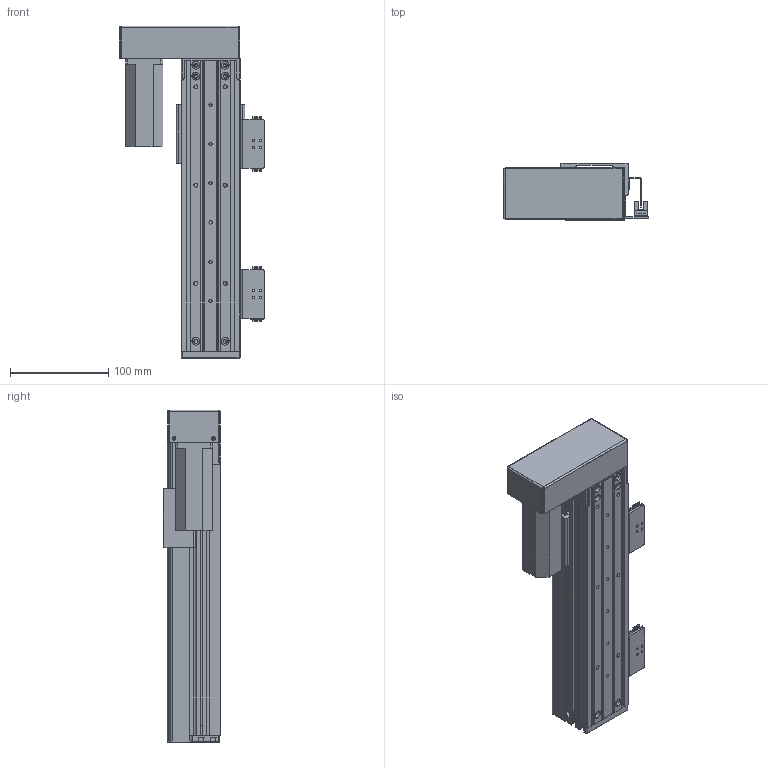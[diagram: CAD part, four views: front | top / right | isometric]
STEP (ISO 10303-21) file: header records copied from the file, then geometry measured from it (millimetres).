
FILE_DESCRIPTION (( 'STEP AP203' ), '1' );
FILE_NAME ('RY60FB-L1210-300-LK.SLDASM_150.step', '2021-02-23T01:00:46', ( '盈信电脑' ), ( '东莞市道滘镇水果街19号' ), 'SwSTEP 2.0', 'SolidWorks 2012', '' );
FILE_SCHEMA (( 'CONFIG_CONTROL_DESIGN' ));
Length unit declared in the file: millimetre
Products named in the file (14): RY60FB-L1210-300-LK.SLDASM_150; RY80俋离覜茼え; RY60FB-674嫖萇耀輸; RY60FB-左右折电机安装板; 覜茼ん674; RY60FB-蛌殏萇儂欶; RY60FB-感应器674光电安装座; RY60FB綴裔啣; 侂狟100W; RY60FB-蛌殏奻裔-300-LK_150; RY60FB转折电机端支撑座; RY60FB-臏賑輸; RY60FB-蛌殏菁釱-300-LK_150; 滅袉蝶18-10
Assembly tree (18 placements, depth 3):
  RY60FB-L1210-300-LK.SLDASM_150
    RY60FB-蛌殏菁釱-300-LK_150
    RY60FB-臏賑輸
    滅袉蝶18-10  x4
    RY60FB-蛌殏奻裔-300-LK_150
    侂狟100W
    RY60FB綴裔啣
    RY60FB转折电机端支撑座
    RY60FB-左右折电机安装板
    RY60FB-蛌殏萇儂欶
    RY60FB-674嫖萇耀輸  x2
      RY60FB-感应器674光电安装座
      覜茼ん674
    RY80俋离覜茼え
Bounding box: 147.75 x 58.5 x 338 mm (x, y, z)
Volume: 585056.6 mm3; surface area: 310453.9 mm2
Topology: 19 solids, 19 shells, 1133 faces, 3074 edges, 1958 vertices
Faces by surface type: plane 591, cylinder 437, cone 97, bspline 8
Entity records: 30310 total; most frequent: CARTESIAN_POINT 5958, DIRECTION 4780, ORIENTED_EDGE 4700, EDGE_CURVE 2350, AXIS2_PLACEMENT_3D 1654, VERTEX_POINT 1520, LINE 1472, VECTOR 1472
